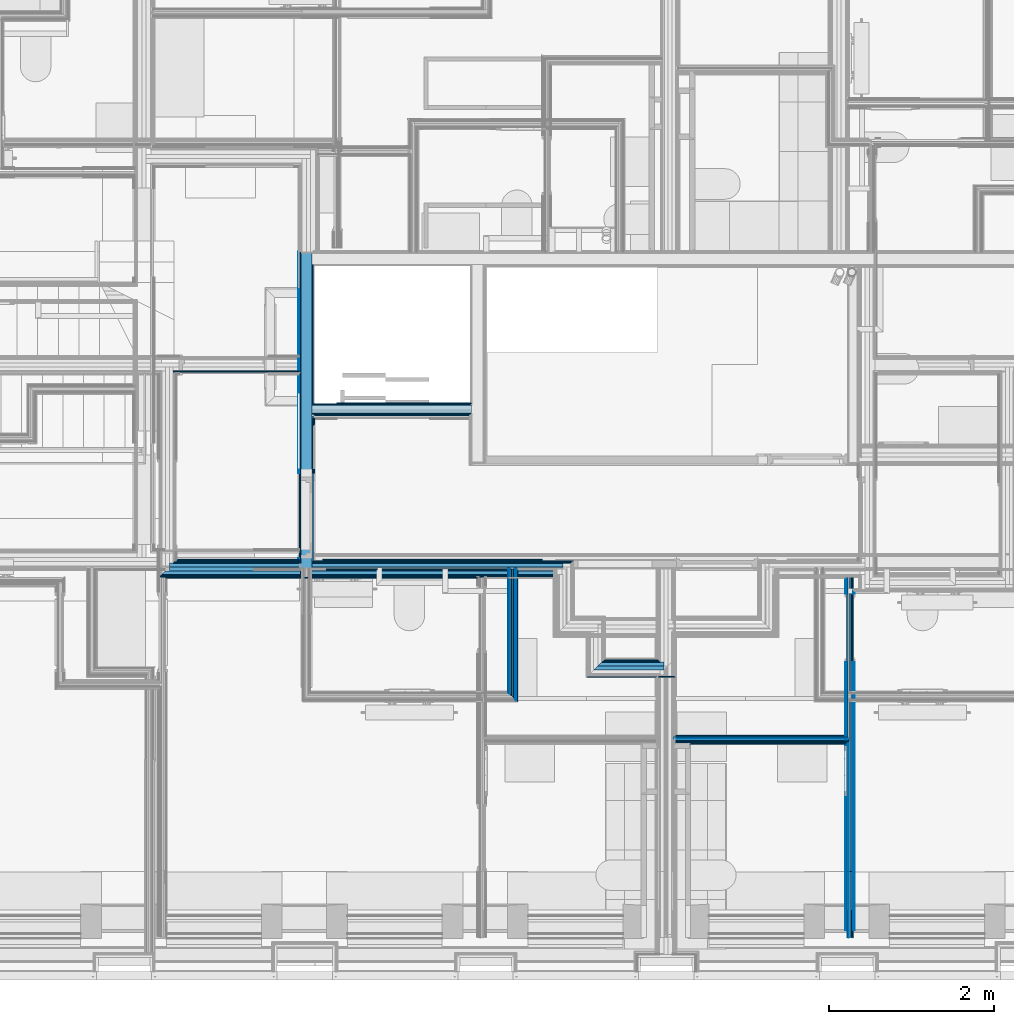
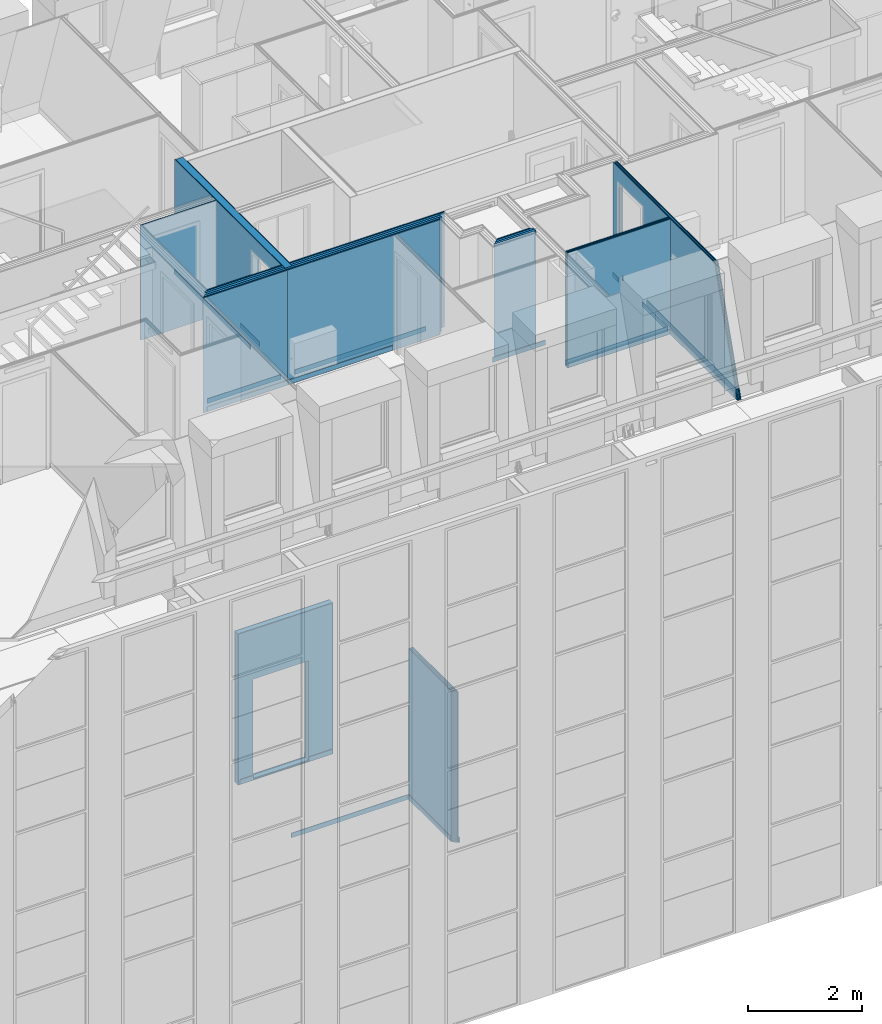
# One storey, part 21 of 169: 59 building element parts, 4 openings, 10 elements without a shape of their own.
"""IFC2X3 building model written with IfcOpenShell, lengths in metres."""

from ifc_helpers import new_model, entity, si_unit, converted_unit, derived_unit, money_unit, direction, frame, frame_2d, origin_with_axes, place, context, subcontext, project, spatial, polyline, rectangle, outline, extrude, clip, halfspace, material, type_object, element, aggregate, save


model = new_model("IFC2X3")

# Units and contexts
model_context = context("Model", 3, precision=1e-05, world=origin_with_axes(), true_north=direction((0.0, 1.0)))
body_context = subcontext(model_context, "Body", "Model", "MODEL_VIEW", scale=1.0)
ifc_project = project(units=[si_unit("LENGTHUNIT", "METRE"), si_unit("AREAUNIT", "SQUARE_METRE"), si_unit("VOLUMEUNIT", "CUBIC_METRE"), si_unit("ABSORBEDDOSEUNIT", "GRAY"), si_unit("AMOUNTOFSUBSTANCEUNIT", "MOLE"), si_unit("DOSEEQUIVALENTUNIT", "SIEVERT"), si_unit("ELECTRICCAPACITANCEUNIT", "FARAD"), si_unit("ELECTRICCHARGEUNIT", "COULOMB"), si_unit("ELECTRICCONDUCTANCEUNIT", "SIEMENS"), si_unit("ELECTRICCURRENTUNIT", "AMPERE"), si_unit("ELECTRICRESISTANCEUNIT", "OHM"), si_unit("ELECTRICVOLTAGEUNIT", "VOLT"), si_unit("ENERGYUNIT", "JOULE"), si_unit("FORCEUNIT", "NEWTON"), si_unit("FREQUENCYUNIT", "HERTZ"), si_unit("ILLUMINANCEUNIT", "LUX"), si_unit("INDUCTANCEUNIT", "HENRY"), si_unit("LUMINOUSFLUXUNIT", "LUMEN"), si_unit("LUMINOUSINTENSITYUNIT", "CANDELA"), si_unit("MAGNETICFLUXDENSITYUNIT", "TESLA"), si_unit("MAGNETICFLUXUNIT", "WEBER"), si_unit("MASSUNIT", "GRAM"), converted_unit("PLANEANGLEUNIT", "degree", entity("IfcReal", 0.0174532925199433), si_unit("PLANEANGLEUNIT", "RADIAN"), dimensions=[0, 0, 0, 0, 0, 0, 0]), si_unit("POWERUNIT", "WATT"), si_unit("PRESSUREUNIT", "PASCAL"), si_unit("RADIOACTIVITYUNIT", "BECQUEREL"), si_unit("SOLIDANGLEUNIT", "STERADIAN"), si_unit("THERMODYNAMICTEMPERATUREUNIT", "KELVIN"), si_unit("TIMEUNIT", "SECOND"), derived_unit("ACCELERATIONUNIT", [(si_unit("LENGTHUNIT", "METRE"), 1), (si_unit("TIMEUNIT", "SECOND"), -2)]), derived_unit("ANGULARVELOCITYUNIT", [(converted_unit("PLANEANGLEUNIT", "degree", entity("IfcReal", 0.0174532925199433), si_unit("PLANEANGLEUNIT", "RADIAN"), dimensions=[0, 0, 0, 0, 0, 0, 0]), 1), (si_unit("TIMEUNIT", "SECOND"), -1)]), derived_unit("CURVATUREUNIT", [(converted_unit("PLANEANGLEUNIT", "degree", entity("IfcReal", 0.0174532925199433), si_unit("PLANEANGLEUNIT", "RADIAN"), dimensions=[0, 0, 0, 0, 0, 0, 0]), 1), (si_unit("LENGTHUNIT", "METRE"), -1)]), derived_unit("DYNAMICVISCOSITYUNIT", [(si_unit("PRESSUREUNIT", "PASCAL"), 1), (si_unit("TIMEUNIT", "SECOND"), 1)]), derived_unit("HEATFLUXDENSITYUNIT", [(si_unit("POWERUNIT", "WATT"), 1), (si_unit("LENGTHUNIT", "METRE"), -2)]), derived_unit("HEATINGVALUEUNIT", [(si_unit("ENERGYUNIT", "JOULE"), 1), (si_unit("MASSUNIT", "GRAM"), -1)]), derived_unit("INTEGERCOUNTRATEUNIT", [(si_unit("TIMEUNIT", "SECOND"), -1)]), derived_unit("IONCONCENTRATIONUNIT", [(si_unit("MASSUNIT", "GRAM"), 1), (si_unit("VOLUMEUNIT", "CUBIC_METRE"), -1)]), derived_unit("ISOTHERMALMOISTURECAPACITYUNIT", [(si_unit("VOLUMEUNIT", "CUBIC_METRE"), 1), (si_unit("MASSUNIT", "GRAM"), -1)]), derived_unit("KINEMATICVISCOSITYUNIT", [(si_unit("AREAUNIT", "SQUARE_METRE"), 1), (si_unit("TIMEUNIT", "SECOND"), -1)]), derived_unit("LINEARFORCEUNIT", [(si_unit("FORCEUNIT", "NEWTON"), 1), (si_unit("LENGTHUNIT", "METRE"), -1)]), derived_unit("LINEARMOMENTUNIT", [(si_unit("FORCEUNIT", "NEWTON"), 1), (si_unit("LENGTHUNIT", "METRE"), -1)]), derived_unit("LINEARSTIFFNESSUNIT", [(si_unit("FORCEUNIT", "NEWTON"), 1), (si_unit("LENGTHUNIT", "METRE"), -1)]), derived_unit("LINEARVELOCITYUNIT", [(si_unit("LENGTHUNIT", "METRE"), 1), (si_unit("TIMEUNIT", "SECOND"), -1)]), derived_unit("LUMINOUSINTENSITYDISTRIBUTIONUNIT", [(si_unit("LUMINOUSINTENSITYUNIT", "CANDELA"), 1), (si_unit("LUMINOUSFLUXUNIT", "LUMEN"), -1)]), derived_unit("MASSDENSITYUNIT", [(si_unit("MASSUNIT", "GRAM"), 1), (si_unit("VOLUMEUNIT", "CUBIC_METRE"), -1)]), derived_unit("MASSFLOWRATEUNIT", [(si_unit("MASSUNIT", "GRAM"), 1), (si_unit("TIMEUNIT", "SECOND"), -1)]), derived_unit("MASSPERLENGTHUNIT", [(si_unit("MASSUNIT", "GRAM"), 1), (si_unit("LENGTHUNIT", "METRE"), -1)]), derived_unit("MODULUSOFELASTICITYUNIT", [(si_unit("FORCEUNIT", "NEWTON"), 1), (si_unit("AREAUNIT", "SQUARE_METRE"), -1)]), derived_unit("MODULUSOFLINEARSUBGRADEREACTIONUNIT", [(si_unit("FORCEUNIT", "NEWTON"), 1), (si_unit("LENGTHUNIT", "METRE"), -2)]), derived_unit("MODULUSOFROTATIONALSUBGRADEREACTIONUNIT", [(si_unit("FORCEUNIT", "NEWTON"), 1), (si_unit("LENGTHUNIT", "METRE"), 1)]), derived_unit("MODULUSOFSUBGRADEREACTIONUNIT", [(si_unit("FORCEUNIT", "NEWTON"), 1), (si_unit("VOLUMEUNIT", "CUBIC_METRE"), -1)]), derived_unit("MOISTUREDIFFUSIVITYUNIT", [(si_unit("VOLUMEUNIT", "CUBIC_METRE"), 1), (si_unit("TIMEUNIT", "SECOND"), -1)]), derived_unit("MOLECULARWEIGHTUNIT", [(si_unit("MASSUNIT", "GRAM"), 1), (si_unit("AMOUNTOFSUBSTANCEUNIT", "MOLE"), -1)]), derived_unit("PLANARFORCEUNIT", [(si_unit("FORCEUNIT", "NEWTON"), 1), (si_unit("LENGTHUNIT", "METRE"), -2)]), derived_unit("ROTATIONALFREQUENCYUNIT", [(si_unit("TIMEUNIT", "SECOND"), -1)]), derived_unit("ROTATIONALMASSUNIT", [(si_unit("MASSUNIT", "GRAM"), 1), (si_unit("LENGTHUNIT", "METRE"), 2)]), derived_unit("ROTATIONALSTIFFNESSUNIT", [(si_unit("FORCEUNIT", "NEWTON"), 1), (si_unit("LENGTHUNIT", "METRE"), 1), (converted_unit("PLANEANGLEUNIT", "degree", entity("IfcReal", 0.0174532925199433), si_unit("PLANEANGLEUNIT", "RADIAN"), dimensions=[0, 0, 0, 0, 0, 0, 0]), -1)]), derived_unit("SECTIONAREAINTEGRALUNIT", [(si_unit("LENGTHUNIT", "METRE"), 5)]), derived_unit("SECTIONMODULUSUNIT", [(si_unit("LENGTHUNIT", "METRE"), 3)]), derived_unit("SHEARMODULUSUNIT", [(si_unit("FORCEUNIT", "NEWTON"), 1), (si_unit("AREAUNIT", "SQUARE_METRE"), -1)]), derived_unit("SOUNDPOWERUNIT", [(si_unit("ENERGYUNIT", "JOULE"), 1), (si_unit("TIMEUNIT", "SECOND"), -1)]), derived_unit("SPECIFICHEATCAPACITYUNIT", [(si_unit("FORCEUNIT", "NEWTON"), 1), (si_unit("MASSUNIT", "GRAM"), -1), (si_unit("THERMODYNAMICTEMPERATUREUNIT", "KELVIN"), -1)]), derived_unit("TEMPERATUREGRADIENTUNIT", [(si_unit("THERMODYNAMICTEMPERATUREUNIT", "KELVIN"), 1), (si_unit("LENGTHUNIT", "METRE"), -1)]), derived_unit("THERMALADMITTANCEUNIT", [(si_unit("POWERUNIT", "WATT"), 1), (si_unit("AREAUNIT", "SQUARE_METRE"), -1), (si_unit("THERMODYNAMICTEMPERATUREUNIT", "KELVIN"), -1)]), derived_unit("THERMALCONDUCTANCEUNIT", [(si_unit("POWERUNIT", "WATT"), 1), (si_unit("LENGTHUNIT", "METRE"), -1), (si_unit("THERMODYNAMICTEMPERATUREUNIT", "KELVIN"), -1)]), derived_unit("THERMALEXPANSIONCOEFFICIENTUNIT", [(si_unit("THERMODYNAMICTEMPERATUREUNIT", "KELVIN"), -1)]), derived_unit("THERMALRESISTANCEUNIT", [(si_unit("AREAUNIT", "SQUARE_METRE"), 1), (si_unit("POWERUNIT", "WATT"), -1)]), derived_unit("THERMALTRANSMITTANCEUNIT", [(si_unit("POWERUNIT", "WATT"), 1), (si_unit("AREAUNIT", "SQUARE_METRE"), -1), (si_unit("THERMODYNAMICTEMPERATUREUNIT", "KELVIN"), -1)]), derived_unit("TORQUEUNIT", [(si_unit("FORCEUNIT", "NEWTON"), 1), (si_unit("LENGTHUNIT", "METRE"), 1)]), derived_unit("VAPORPERMEABILITYUNIT", [(si_unit("MASSUNIT", "GRAM"), 1), (si_unit("TIMEUNIT", "SECOND"), -1)]), derived_unit("VOLUMETRICFLOWRATEUNIT", [(si_unit("VOLUMEUNIT", "CUBIC_METRE"), 1), (si_unit("TIMEUNIT", "SECOND"), -1)]), derived_unit("WARPINGCONSTANTUNIT", [(si_unit("LENGTHUNIT", "METRE"), 6)]), derived_unit("WARPINGMOMENTUNIT", [(si_unit("FORCEUNIT", "NEWTON"), 1), (si_unit("LENGTHUNIT", "METRE"), 2)]), money_unit("GBP")], contexts=[model_context])

# Site, building, storey
site_placement = place(None, origin_with_axes())
site = spatial("IfcSite", under=ifc_project, at=site_placement, Name="Site", CompositionType="ELEMENT")
building_placement = place(site_placement, origin_with_axes())
building = spatial("IfcBuilding", under=site, at=building_placement, Name="Building01", CompositionType="ELEMENT")
storey_placement = place(building_placement, frame((0.0, 0.0, 5.15), z_axis=(0.0, 0.0, 1.0), x_axis=(1.0, 0.0, 0.0)))
storey = spatial("IfcBuildingStorey", under=building, at=storey_placement, Name="1F", CompositionType="ELEMENT", Elevation=5.15)

# Wall, opening, building element parts
wall_type_1 = type_object("IfcWallType", Name="SHE_A-Walls_Type04a_BlockworkWall_130mm", PredefinedType="NOTDEFINED")
wall_1_placement = place(storey_placement, frame((11.145, 6.965, 0.0), z_axis=(0.0, 0.0, 1.0), x_axis=(-1.0, 0.0, 0.0)))
wall_1 = element("IfcWall", 1, at=wall_1_placement, inside=storey, type_object=wall_type_1, Name="4A", ObjectType="SHE_A-Walls_Type04a_BlockworkWall_130mm")
opening_1_placement = place(wall_1_placement, frame((0.5, -0.03, 0.03), z_axis=(0.0, 0.0, 1.0), x_axis=(1.0, 0.0, 0.0)))
element("IfcOpeningElement", 2, at=opening_1_placement, cuts=wall_1, Name="Opening", ObjectType="Opening", context=body_context, shape_type="SweptSolid", body=[
    extrude(rectangle(XDim=1.133302, YDim=2.14, at=frame_2d((-0.566651, 1.07), x_axis=(-1.0, 0.0))), frame((0.0, 0.0, 0.0), z_axis=(0.0, 1.0, 0.0), x_axis=(-1.0, 0.0, 0.0)), (0.0, 0.0, 1.0), 0.16),
])
ifc_material_1 = material(Name="A_BSUK_Walls_Timber")
placement_1 = place(wall_1_placement, origin_with_axes())
building_element_part_1 = element("IfcBuildingElementPart", 3, at=placement_1, material=ifc_material_1, Name="1", context=body_context, shape_type="SweptSolid", body=[
    extrude(outline(polyline([(0.0, -0.015), (0.015, -0.03), (1.633302, -0.03), (1.633302, -0.015), (0.0, -0.015)])), frame((0.0, 0.0, 0.015), z_axis=(0.0, 0.0, 1.0), x_axis=(1.0, 0.0, 0.0)), (0.0, 0.0, 1.0), 0.1),
])
ifc_material_2 = material(Name="A_BSUK_WallInternal_Finishes_Plasterboard")
building_element_part_2 = element("IfcBuildingElementPart", 4, at=placement_1, material=ifc_material_2, Name="2", context=body_context, shape_type="SweptSolid", body=[
    extrude(outline(polyline([(1.93, 0.0), (0.0, 0.0), (0.015, -0.015), (1.93, -0.015), (1.93, 0.0)])), origin_with_axes(), (0.0, 0.0, 1.0), 3.24),
])
ifc_material_3 = material(Name="A_BSUK_WallsInternal_Block")
building_element_part_3 = element("IfcBuildingElementPart", 5, at=placement_1, material=ifc_material_3, Name="3", context=body_context, shape_type="SweptSolid", body=[
    extrude(rectangle(XDim=1.93, YDim=0.1, at=frame_2d((0.965, 0.05), x_axis=(-1.0, 0.0))), origin_with_axes(), (0.0, 0.0, 1.0), 3.24),
])
ifc_material_4 = material(Name="A_BSUK_WallInternal_Finishes_Plaster")
building_element_part_4 = element("IfcBuildingElementPart", 6, at=placement_1, material=ifc_material_4, Name="4", context=body_context, shape_type="SweptSolid", body=[
    extrude(outline(polyline([(1.93, 0.115), (0.015, 0.115), (0.0, 0.1), (1.93, 0.1), (1.93, 0.115)])), origin_with_axes(), (0.0, 0.0, 1.0), 3.24),
])
building_element_part_5 = element("IfcBuildingElementPart", 7, at=placement_1, material=ifc_material_1, Name="5", context=body_context, shape_type="SweptSolid", body=[
    extrude(outline(polyline([(1.9, 0.13), (0.03, 0.13), (0.015, 0.115), (1.9, 0.115), (1.9, 0.13)])), frame((0.0, 0.0, 0.015), z_axis=(0.0, 0.0, 1.0), x_axis=(1.0, 0.0, 0.0)), (0.0, 0.0, 1.0), 0.1),
])
aggregate(wall_1, [building_element_part_1, building_element_part_2, building_element_part_3, building_element_part_4, building_element_part_5])

# Wall, building element parts
wall_type_2 = type_object("IfcWallType", Name="SHE_A-Walls_Type05a_Partition_95mm_tall", PredefinedType="NOTDEFINED")
wall_2_placement = place(storey_placement, frame((11.652536, 3.42, 0.0), z_axis=(0.0, 0.0, 1.0), x_axis=(0.0, -1.0, 0.0)))
wall_2 = element("IfcWall", 8, at=wall_2_placement, inside=storey, type_object=wall_type_2, Name="5A", ObjectType="SHE_A-Walls_Type05a_Partition_95mm_tall")
placement_2 = place(wall_2_placement, origin_with_axes())
building_element_part_6 = element("IfcBuildingElementPart", 9, at=placement_2, material=ifc_material_1, Name="1", context=body_context, shape_type="SweptSolid", body=[
    extrude(outline(polyline([(-1.545, -0.075), (-0.075, -0.075), (-0.06, -0.06), (-1.545, -0.06), (-1.545, -0.075)])), frame((0.0, 0.0, 0.015), z_axis=(0.0, 0.0, 1.0), x_axis=(1.0, 0.0, 0.0)), (0.0, 0.0, 1.0), 0.1),
])
building_element_part_7 = element("IfcBuildingElementPart", 10, at=placement_2, material=ifc_material_2, Name="2", context=body_context, shape_type="SweptSolid", body=[
    extrude(outline(polyline([(-1.56, -0.06), (-0.06, -0.06), (-0.048, -0.048), (-1.56, -0.048), (-1.56, -0.06)])), origin_with_axes(), (0.0, 0.0, 1.0), 3.24),
])
ifc_material_5 = material(Name="Air Cavity")
building_element_part_8 = element("IfcBuildingElementPart", 11, at=placement_2, material=ifc_material_5, Name="3", context=body_context, shape_type="SweptSolid", body=[
    extrude(outline(polyline([(-1.56, -0.048), (-0.048, -0.048), (-0.025, -0.025), (-1.56, -0.025), (-1.56, -0.048)])), origin_with_axes(), (0.0, 0.0, 1.0), 3.24),
])
ifc_material_6 = material(Name="A_BSUK_Insulation")
building_element_part_9 = element("IfcBuildingElementPart", 12, at=placement_2, material=ifc_material_6, Name="4", context=body_context, shape_type="SweptSolid", body=[
    extrude(outline(polyline([(-1.56, -0.025), (-0.025, -0.025), (0.0, 0.0), (-1.56, 0.0), (-1.56, -0.025)])), origin_with_axes(), (0.0, 0.0, 1.0), 3.24),
])
building_element_part_10 = element("IfcBuildingElementPart", 13, at=placement_2, material=ifc_material_5, Name="5", context=body_context, shape_type="SweptSolid", body=[
    extrude(outline(polyline([(-1.56, 0.0), (0.0, 0.0), (0.023, 0.023), (-1.56, 0.023), (-1.56, 0.0)])), origin_with_axes(), (0.0, 0.0, 1.0), 3.24),
])
building_element_part_11 = element("IfcBuildingElementPart", 14, at=placement_2, material=ifc_material_2, Name="6", context=body_context, shape_type="SweptSolid", body=[
    extrude(outline(polyline([(-1.56, 0.023), (0.023, 0.023), (0.035, 0.035), (-1.56, 0.035), (-1.56, 0.023)])), origin_with_axes(), (0.0, 0.0, 1.0), 3.24),
])
building_element_part_12 = element("IfcBuildingElementPart", 15, at=placement_2, material=ifc_material_1, Name="7", context=body_context, shape_type="SweptSolid", body=[
    extrude(outline(polyline([(-1.56, 0.035), (0.035, 0.035), (0.05, 0.05), (-1.56, 0.05), (-1.56, 0.035)])), frame((0.0, 0.0, 0.015), z_axis=(0.0, 0.0, 1.0), x_axis=(1.0, 0.0, 0.0)), (0.0, 0.0, 1.0), 0.1),
])
aggregate(wall_2, [building_element_part_6, building_element_part_7, building_element_part_8, building_element_part_9, building_element_part_10, building_element_part_11, building_element_part_12])

# Wall, building element part
wall_type_3 = type_object("IfcWallType", Name="SHE_A-Walls_Type03a_BlockworkWall_170mm", PredefinedType="NOTDEFINED")
wall_3_placement = place(storey_placement, frame((9.215, 4.995, 0.0), z_axis=(0.0, 0.0, 1.0), x_axis=(1.0, 0.0, 0.0)))
wall_3 = element("IfcWall", 16, at=wall_3_placement, inside=storey, type_object=wall_type_3, Name="4B", ObjectType="SHE_A-Walls_Type03a_BlockworkWall_170mm")
building_element_part_13_placement = place(wall_3_placement, origin_with_axes())
building_element_part_13 = element("IfcBuildingElementPart", 17, at=building_element_part_13_placement, material=ifc_material_1, Name="4", context=body_context, shape_type="SweptSolid", body=[
    extrude(rectangle(XDim=2.385, YDim=0.015, at=frame_2d((1.185036, -0.0225), x_axis=(-1.0, 0.0))), frame((0.0, 0.0, 0.015), z_axis=(0.0, 0.0, 1.0), x_axis=(1.0, 0.0, 0.0)), (0.0, 0.0, 1.0), 0.1),
])
aggregate(wall_3, [building_element_part_13])

# Wall, openings, building element parts
wall_4_placement = place(storey_placement, frame((9.075, 8.805, 9.83), z_axis=(0.0, 0.0, 1.0), x_axis=(0.0, -1.0, 0.0)))
wall_4 = element("IfcWall", 18, at=wall_4_placement, inside=storey, type_object=wall_type_3, Name="4B", ObjectType="SHE_A-Walls_Type03a_BlockworkWall_170mm")
opening_2_placement = place(wall_4_placement, frame((2.667281, -0.03, 0.0), z_axis=(0.0, 0.0, 1.0), x_axis=(1.0, 0.0, 0.0)))
element("IfcOpeningElement", 19, at=opening_2_placement, cuts=wall_4, Name="Opening", ObjectType="Opening", context=body_context, shape_type="SweptSolid", body=[
    extrude(rectangle(XDim=0.984, YDim=2.142, at=frame_2d((-0.492, 1.071), x_axis=(1.0, 0.0))), frame((0.0, 0.0, 0.0), z_axis=(0.0, 1.0, 0.0), x_axis=(-1.0, 0.0, 0.0)), (0.0, 0.0, 1.0), 0.2),
])
opening_3_placement = place(wall_4_placement, frame((2.713, -0.03, 0.0), z_axis=(0.0, 0.0, 1.0), x_axis=(1.0, 0.0, 0.0)))
element("IfcOpeningElement", 20, at=opening_3_placement, cuts=wall_4, Name="Opening", ObjectType="Opening", context=body_context, shape_type="SweptSolid", body=[
    extrude(rectangle(XDim=2.142, YDim=0.984, at=frame_2d((-0.492, 1.071), x_axis=(0.0, -1.0))), frame((0.0, 0.0, 0.0), z_axis=(0.0, 1.0, 0.0), x_axis=(-1.0, 0.0, 0.0)), (0.0, 0.0, 1.0), 0.2),
])
placement_3 = place(wall_4_placement, origin_with_axes())
building_element_part_14 = element("IfcBuildingElementPart", 21, at=placement_3, material=ifc_material_1, Name="1", context=body_context, shape_type="SweptSolid", body=[
    extrude(rectangle(XDim=3.725, YDim=0.015, at=frame_2d((1.8475, -0.0225), x_axis=(-1.0, 0.0))), frame((0.0, 0.0, 0.015), z_axis=(0.0, 0.0, 1.0), x_axis=(1.0, 0.0, 0.0)), (0.0, 0.0, 1.0), 0.1),
])
building_element_part_15 = element("IfcBuildingElementPart", 22, at=placement_3, material=ifc_material_2, Name="2", context=body_context, shape_type="SweptSolid", body=[
    extrude(rectangle(XDim=3.755, YDim=0.015, at=frame_2d((1.8625, -0.0075), x_axis=(-1.0, 0.0))), origin_with_axes(), (0.0, 0.0, 1.0), 2.468),
])
building_element_part_16 = element("IfcBuildingElementPart", 23, at=placement_3, material=ifc_material_3, Name="3", context=body_context, shape_type="SweptSolid", body=[
    extrude(rectangle(XDim=3.85, YDim=0.14, at=frame_2d((1.925, 0.07), x_axis=(-1.0, 0.0))), origin_with_axes(), (0.0, 0.0, 1.0), 2.468),
])
building_element_part_17 = element("IfcBuildingElementPart", 24, at=placement_3, material=ifc_material_4, Name="4", context=body_context, shape_type="SweptSolid", body=[
    extrude(rectangle(XDim=1.685, YDim=0.015, at=frame_2d((0.9825, 0.1475), x_axis=(-1.0, 0.0))), origin_with_axes(), (0.0, 0.0, 1.0), 2.468),
])
building_element_part_18 = element("IfcBuildingElementPart", 25, at=placement_3, material=ifc_material_4, Name="5", context=body_context, shape_type="SweptSolid", body=[
    extrude(rectangle(XDim=1.766, YDim=0.015, at=frame_2d((2.857, 0.1475), x_axis=(-1.0, 0.0))), origin_with_axes(), (0.0, 0.0, 1.0), 2.468),
])
building_element_part_19 = element("IfcBuildingElementPart", 26, at=placement_3, material=ifc_material_1, Name="6", context=body_context, shape_type="SweptSolid", body=[
    extrude(outline(polyline([(3.61, 0.17), (1.998, 0.17), (1.998, 0.155), (3.625, 0.155), (3.61, 0.17)])), frame((0.0, 0.0, 0.015), z_axis=(0.0, 0.0, 1.0), x_axis=(1.0, 0.0, 0.0)), (0.0, 0.0, 1.0), 0.1),
])
aggregate(wall_4, [building_element_part_14, building_element_part_15, building_element_part_16, building_element_part_17, building_element_part_18, building_element_part_19])

# Wall, building element parts
wall_type_4 = type_object("IfcWallType", Name="SHE_A-Walls_Type05b_Partition_80mm", PredefinedType="NOTDEFINED")
wall_5_placement = place(storey_placement, frame((15.717, 2.922761, 9.83), z_axis=(0.0, 0.0, 1.0), x_axis=(-1.0, 0.0, 0.0)))
wall_5 = element("IfcWall", 27, at=wall_5_placement, inside=storey, type_object=wall_type_4, Name="5B", ObjectType="SHE_A-Walls_Type05b_Partition_80mm")
placement_4 = place(wall_5_placement, origin_with_axes())
building_element_part_20 = element("IfcBuildingElementPart", 28, at=placement_4, material=ifc_material_1, Name="1", context=body_context, shape_type="SweptSolid", body=[
    extrude(rectangle(XDim=2.06, YDim=0.015, at=frame_2d((1.072, -0.0345), x_axis=(-1.0, 0.0))), frame((0.0, 0.0, 0.015), z_axis=(0.0, 0.0, 1.0), x_axis=(1.0, 0.0, 0.0)), (0.0, 0.0, 1.0), 0.1),
])
building_element_part_21 = element("IfcBuildingElementPart", 29, at=placement_4, material=ifc_material_2, Name="2", context=body_context, shape_type="SweptSolid", body=[
    extrude(rectangle(XDim=2.105, YDim=0.015, at=frame_2d((1.0645, -0.0195), x_axis=(-1.0, 0.0))), origin_with_axes(), (0.0, 0.0, 1.0), 2.468),
])
building_element_part_22 = element("IfcBuildingElementPart", 30, at=placement_4, material=ifc_material_5, Name="3", context=body_context, shape_type="SweptSolid", body=[
    extrude(rectangle(XDim=2.105, YDim=0.012, at=frame_2d((1.0645, -0.006), x_axis=(-1.0, 0.0))), origin_with_axes(), (0.0, 0.0, 1.0), 2.468),
])
building_element_part_23 = element("IfcBuildingElementPart", 31, at=placement_4, material=ifc_material_6, Name="4", context=body_context, shape_type="SweptSolid", body=[
    extrude(rectangle(XDim=2.117, YDim=0.025, at=frame_2d((1.0585, 0.0125), x_axis=(-1.0, 0.0))), origin_with_axes(), (0.0, 0.0, 1.0), 2.468),
])
building_element_part_24 = element("IfcBuildingElementPart", 32, at=placement_4, material=ifc_material_5, Name="5", context=body_context, shape_type="SweptSolid", body=[
    extrude(rectangle(XDim=2.117, YDim=0.013, at=frame_2d((1.0585, 0.0315), x_axis=(-1.0, 0.0))), origin_with_axes(), (0.0, 0.0, 1.0), 2.468),
])
building_element_part_25 = element("IfcBuildingElementPart", 33, at=placement_4, material=ifc_material_2, Name="6", context=body_context, shape_type="SweptSolid", body=[
    extrude(rectangle(XDim=2.09, YDim=0.015, at=frame_2d((1.072, 0.0455), x_axis=(-1.0, 0.0))), origin_with_axes(), (0.0, 0.0, 1.0), 2.468),
])
building_element_part_26 = element("IfcBuildingElementPart", 34, at=placement_4, material=ifc_material_1, Name="7", context=body_context, shape_type="SweptSolid", body=[
    extrude(rectangle(XDim=2.06, YDim=0.015, at=frame_2d((1.072, 0.0605), x_axis=(-1.0, 0.0))), frame((0.0, 0.0, 0.015), z_axis=(0.0, 0.0, 1.0), x_axis=(1.0, 0.0, 0.0)), (0.0, 0.0, 1.0), 0.1),
])
aggregate(wall_5, [building_element_part_20, building_element_part_21, building_element_part_22, building_element_part_23, building_element_part_24, building_element_part_25, building_element_part_26])

# Wall, building element part
wall_type_5 = type_object("IfcWallType", Name="SHE_A-Walls_Type01d_Partywall_200mm_twin", PredefinedType="NOTDEFINED")
wall_6_placement = place(storey_placement, frame((9.06, 7.425061, 9.83), z_axis=(0.0, 0.0, 1.0), x_axis=(-1.0, 0.0, 0.0)))
wall_6 = element("IfcWall", 35, at=wall_6_placement, inside=storey, type_object=wall_type_5, Name="1D", ObjectType="SHE_A-Walls_Type01d_Partywall_200mm_twin")
building_element_part_27_placement = place(wall_6_placement, origin_with_axes())
building_element_part_27 = element("IfcBuildingElementPart", 36, at=building_element_part_27_placement, material=ifc_material_2, Name="11", context=body_context, shape_type="SweptSolid", body=[
    extrude(rectangle(XDim=0.015, YDim=1.53, at=frame_2d((0.765, 0.0525), x_axis=(0.0, -1.0))), origin_with_axes(), (0.0, 0.0, 1.0), 2.468),
])
aggregate(wall_6, [building_element_part_27])

# Wall, building element parts
wall_7_placement = place(storey_placement, frame((12.65, 3.78, 9.83), z_axis=(0.0, 0.0, 1.0), x_axis=(1.0, 0.0, 0.0)))
wall_7 = element("IfcWall", 37, at=wall_7_placement, inside=storey, type_object=wall_type_5, Name="1D", ObjectType="SHE_A-Walls_Type01d_Partywall_200mm_twin")
placement_5 = place(wall_7_placement, origin_with_axes())
building_element_part_28 = element("IfcBuildingElementPart", 38, at=placement_5, material=ifc_material_1, Name="1", context=body_context, shape_type="SweptSolid", body=[
    extrude(outline(polyline([(0.95, -0.1), (-0.1, -0.1), (-0.115, -0.115), (0.965, -0.115), (0.95, -0.1)])), frame((0.0, 0.0, 0.015), z_axis=(0.0, 0.0, 1.0), x_axis=(1.0, 0.0, 0.0)), (0.0, 0.0, 1.0), 0.1),
])
building_element_part_29 = element("IfcBuildingElementPart", 39, at=placement_5, material=ifc_material_6, Name="5", context=body_context, shape_type="SweptSolid", body=[
    extrude(outline(polyline([(0.825, 0.025), (0.025, 0.025), (-0.025, -0.025), (0.825, -0.025), (0.825, 0.025)])), origin_with_axes(), (0.0, 0.0, 1.0), 2.468),
])
building_element_part_30 = element("IfcBuildingElementPart", 40, at=placement_5, material=ifc_material_5, Name="6", context=body_context, shape_type="SweptSolid", body=[
    extrude(outline(polyline([(0.825, 0.07), (0.07, 0.07), (0.025, 0.025), (0.825, 0.025), (0.825, 0.07)])), origin_with_axes(), (0.0, 0.0, 1.0), 2.468),
])
building_element_part_31 = element("IfcBuildingElementPart", 41, at=placement_5, material=ifc_material_2, Name="7", context=body_context, shape_type="SweptSolid", body=[
    extrude(outline(polyline([(0.765, 0.085), (0.085, 0.085), (0.07, 0.07), (0.78, 0.07), (0.765, 0.085)])), origin_with_axes(), (0.0, 0.0, 1.0), 2.468),
])
building_element_part_32 = element("IfcBuildingElementPart", 42, at=placement_5, material=ifc_material_2, Name="8", context=body_context, shape_type="SweptSolid", body=[
    extrude(outline(polyline([(0.75, 0.1), (0.1, 0.1), (0.085, 0.085), (0.765, 0.085), (0.75, 0.1)])), origin_with_axes(), (0.0, 0.0, 1.0), 2.468),
])
aggregate(wall_7, [building_element_part_28, building_element_part_29, building_element_part_30, building_element_part_31, building_element_part_32])

wall_8_placement = place(storey_placement, frame((7.485, 4.955, 9.83), z_axis=(0.0, 0.0, 1.0), x_axis=(1.0, 0.0, 0.0)))
wall_8 = element("IfcWall", 43, at=wall_8_placement, inside=storey, type_object=wall_type_5, Name="1D", ObjectType="SHE_A-Walls_Type01d_Partywall_200mm_twin")
placement_6 = place(wall_8_placement, origin_with_axes())
building_element_part_33 = element("IfcBuildingElementPart", 44, at=placement_6, material=ifc_material_1, Name="1", context=body_context, shape_type="SweptSolid", body=[
    extrude(rectangle(XDim=1.635, YDim=0.015, at=frame_2d((0.7725, -0.0825), x_axis=(-1.0, 0.0))), frame((0.0, 0.0, 0.015), z_axis=(0.0, 0.0, 1.0), x_axis=(1.0, 0.0, 0.0)), (0.0, 0.0, 1.0), 0.1),
])
building_element_part_34 = element("IfcBuildingElementPart", 45, at=placement_6, material=ifc_material_2, Name="2", context=body_context, shape_type="SweptSolid", body=[
    extrude(outline(polyline([(1.59, -0.06), (-0.11, -0.06), (-0.125, -0.075), (1.59, -0.075), (1.59, -0.06)])), origin_with_axes(), (0.0, 0.0, 1.0), 2.468),
])
building_element_part_35 = element("IfcBuildingElementPart", 46, at=placement_6, material=ifc_material_2, Name="3", context=body_context, shape_type="SweptSolid", body=[
    extrude(outline(polyline([(1.59, -0.045), (-0.095, -0.045), (-0.11, -0.06), (1.59, -0.06), (1.59, -0.045)])), origin_with_axes(), (0.0, 0.0, 1.0), 2.468),
])
building_element_part_36 = element("IfcBuildingElementPart", 47, at=placement_6, material=ifc_material_5, Name="4", context=body_context, shape_type="SweptSolid", body=[
    extrude(outline(polyline([(1.59, 0.0), (-0.05, 0.0), (-0.095, -0.045), (1.59, -0.045), (1.59, 0.0)])), origin_with_axes(), (0.0, 0.0, 1.0), 2.468),
])
building_element_part_37 = element("IfcBuildingElementPart", 48, at=placement_6, material=ifc_material_6, Name="5", context=body_context, shape_type="SweptSolid", body=[
    extrude(rectangle(XDim=1.59, YDim=0.05, at=frame_2d((0.795, 0.025), x_axis=(-1.0, 0.0))), origin_with_axes(), (0.0, 0.0, 1.0), 2.468),
])
building_element_part_38 = element("IfcBuildingElementPart", 49, at=placement_6, material=ifc_material_5, Name="6", context=body_context, shape_type="SweptSolid", body=[
    extrude(rectangle(XDim=1.59, YDim=0.045, at=frame_2d((0.795, 0.0725), x_axis=(-1.0, 0.0))), origin_with_axes(), (0.0, 0.0, 1.0), 2.468),
])
building_element_part_39 = element("IfcBuildingElementPart", 50, at=placement_6, material=ifc_material_2, Name="7", context=body_context, shape_type="SweptSolid", body=[
    extrude(outline(polyline([(1.59, 0.11), (0.06, 0.11), (0.045, 0.095), (1.59, 0.095), (1.59, 0.11)])), origin_with_axes(), (0.0, 0.0, 1.0), 2.468),
])
building_element_part_40 = element("IfcBuildingElementPart", 51, at=placement_6, material=ifc_material_2, Name="8", context=body_context, shape_type="SweptSolid", body=[
    extrude(outline(polyline([(1.575, 0.125), (0.075, 0.125), (0.06, 0.11), (1.575, 0.11), (1.575, 0.125)])), origin_with_axes(), (0.0, 0.0, 1.0), 2.468),
])
building_element_part_41 = element("IfcBuildingElementPart", 52, at=placement_6, material=ifc_material_1, Name="9", context=body_context, shape_type="SweptSolid", body=[
    extrude(outline(polyline([(1.575, 0.14), (0.09, 0.14), (0.075, 0.125), (1.575, 0.125), (1.575, 0.14)])), frame((0.0, 0.0, 0.015), z_axis=(0.0, 0.0, 1.0), x_axis=(1.0, 0.0, 0.0)), (0.0, 0.0, 1.0), 0.1),
])
aggregate(wall_8, [building_element_part_33, building_element_part_34, building_element_part_35, building_element_part_36, building_element_part_37, building_element_part_38, building_element_part_39, building_element_part_40, building_element_part_41])

# Wall, opening, building element parts
wall_9_placement = place(storey_placement, frame((15.717, 4.88, 9.83), z_axis=(0.0, 0.0, 1.0), x_axis=(0.0, -1.0, 0.0)))
wall_9 = element("IfcWall", 53, at=wall_9_placement, inside=storey, type_object=wall_type_4, Name="5B", ObjectType="SHE_A-Walls_Type05b_Partition_80mm")
opening_4_placement = place(wall_9_placement, frame((0.198239, 0.068, 0.0), z_axis=(0.0, 0.0, 1.0), x_axis=(1.0, 0.0, 0.0)))
element("IfcOpeningElement", 54, at=opening_4_placement, cuts=wall_9, Name="Opening", ObjectType="Opening", context=body_context, shape_type="SweptSolid", body=[
    extrude(rectangle(XDim=2.142, YDim=0.834, at=frame_2d((0.417, 1.071), x_axis=(0.0, -1.0))), frame((0.0, 0.0, 0.0), z_axis=(0.0, -1.0, 0.0), x_axis=(1.0, 0.0, 0.0)), (0.0, 0.0, 1.0), 0.11),
])
placement_7 = place(wall_9_placement, origin_with_axes())
building_element_part_42 = element("IfcBuildingElementPart", 55, at=placement_7, material=ifc_material_1, Name="1", context=body_context, shape_type="SweptSolid", body=[
    extrude(rectangle(XDim=1.930239, YDim=0.015, at=frame_2d((0.965119, -0.0345), x_axis=(-1.0, 0.0))), frame((0.0, 0.0, 0.015), z_axis=(0.0, 0.0, 1.0), x_axis=(1.0, 0.0, 0.0)), (0.0, 0.0, 1.0), 0.1),
])
building_element_part_43 = element("IfcBuildingElementPart", 56, at=placement_7, material=ifc_material_1, Name="2", context=body_context, shape_type="SweptSolid", body=[
    extrude(rectangle(XDim=4.2762, YDim=0.015, at=frame_2d((2.1381, -0.0345), x_axis=(-1.0, 0.0))), frame((0.0, 0.0, 0.015), z_axis=(0.0, 0.0, 1.0), x_axis=(1.0, 0.0, 0.0)), (0.0, 0.0, 1.0), 0.1),
])
building_element_part_44 = element("IfcBuildingElementPart", 57, at=placement_7, material=ifc_material_2, Name="3", context=body_context, shape_type="SweptSolid", body=[
    extrude(rectangle(XDim=1.930239, YDim=0.015, at=frame_2d((0.965119, -0.0195), x_axis=(-1.0, 0.0))), origin_with_axes(), (0.0, 0.0, 1.0), 2.468),
])
building_element_part_45 = element("IfcBuildingElementPart", 58, at=placement_7, material=ifc_material_2, Name="4", context=body_context, shape_type="Clipping", body=[
    clip(extrude(rectangle(XDim=2.371419, YDim=0.015, at=frame_2d((3.180948, -0.0195), x_axis=(-1.0, 0.0))), origin_with_axes(), (0.0, 0.0, 1.0), 2.468), halfspace(frame((3.949679, 0.0, 1.283329), z_axis=(-0.95105652, 0.0, -0.30901699), x_axis=(0.0, -1.0, 0.0)), True)),
])
building_element_part_46 = element("IfcBuildingElementPart", 59, at=placement_7, material=ifc_material_5, Name="5", context=body_context, shape_type="Clipping", body=[
    clip(extrude(rectangle(XDim=2.371419, YDim=0.012, at=frame_2d((3.180948, -0.006), x_axis=(-1.0, 0.0))), origin_with_axes(), (0.0, 0.0, 1.0), 2.468), halfspace(frame((3.949679, 0.0, 1.283329), z_axis=(-0.95105652, 0.0, -0.30901699), x_axis=(0.0, -1.0, 0.0)), True)),
])
building_element_part_47 = element("IfcBuildingElementPart", 60, at=placement_7, material=ifc_material_6, Name="6", context=body_context, shape_type="Clipping", body=[
    clip(extrude(rectangle(XDim=4.366658, YDim=0.025, at=frame_2d((2.183329, 0.0125), x_axis=(-1.0, 0.0))), origin_with_axes(), (0.0, 0.0, 1.0), 2.468), halfspace(frame((3.949679, 0.0, 1.283329), z_axis=(-0.95105652, 0.0, -0.30901699), x_axis=(0.0, -1.0, 0.0)), True)),
])
building_element_part_48 = element("IfcBuildingElementPart", 61, at=placement_7, material=ifc_material_5, Name="7", context=body_context, shape_type="Clipping", body=[
    clip(extrude(rectangle(XDim=4.366658, YDim=0.013, at=frame_2d((2.183329, 0.0315), x_axis=(-1.0, 0.0))), origin_with_axes(), (0.0, 0.0, 1.0), 2.468), halfspace(frame((3.949679, 0.0, 1.283329), z_axis=(-0.95105652, 0.0, -0.30901699), x_axis=(0.0, -1.0, 0.0)), True)),
])
building_element_part_49 = element("IfcBuildingElementPart", 62, at=placement_7, material=ifc_material_2, Name="8", context=body_context, shape_type="Clipping", body=[
    clip(extrude(rectangle(XDim=4.366658, YDim=0.015, at=frame_2d((2.183329, 0.0455), x_axis=(-1.0, 0.0))), origin_with_axes(), (0.0, 0.0, 1.0), 2.468), halfspace(frame((3.949679, 0.0, 1.283329), z_axis=(-0.95105652, 0.0, -0.30901699), x_axis=(0.0, -1.0, 0.0)), True)),
])
building_element_part_50 = element("IfcBuildingElementPart", 63, at=placement_7, material=ifc_material_1, Name="9", context=body_context, shape_type="SweptSolid", body=[
    extrude(outline(polyline([(4.2762, 0.068), (0.178, 0.068), (0.163, 0.053), (4.2762, 0.053), (4.2762, 0.068)])), frame((0.0, 0.0, 0.015), z_axis=(0.0, 0.0, 1.0), x_axis=(1.0, 0.0, 0.0)), (0.0, 0.0, 1.0), 0.1),
])
aggregate(wall_9, [building_element_part_42, building_element_part_43, building_element_part_44, building_element_part_45, building_element_part_46, building_element_part_47, building_element_part_48, building_element_part_49, building_element_part_50])

# Wall, building element parts
wall_10_placement = place(storey_placement, frame((9.215, 4.955, 9.83), z_axis=(0.0, 0.0, 1.0), x_axis=(1.0, 0.0, 0.0)))
wall_10 = element("IfcWall", 64, at=wall_10_placement, inside=storey, type_object=wall_type_5, Name="1D", ObjectType="SHE_A-Walls_Type01d_Partywall_200mm_twin")
placement_8 = place(wall_10_placement, origin_with_axes())
building_element_part_51 = element("IfcBuildingElementPart", 65, at=placement_8, material=ifc_material_1, Name="1", context=body_context, shape_type="SweptSolid", body=[
    extrude(rectangle(XDim=2.14, YDim=0.015, at=frame_2d((0.93, -0.0825), x_axis=(-1.0, 0.0))), frame((0.0, 0.0, 0.015), z_axis=(0.0, 0.0, 1.0), x_axis=(1.0, 0.0, 0.0)), (0.0, 0.0, 1.0), 0.1),
])
building_element_part_52 = element("IfcBuildingElementPart", 66, at=placement_8, material=ifc_material_2, Name="3", context=body_context, shape_type="SweptSolid", body=[
    extrude(rectangle(XDim=3.1, YDim=0.015, at=frame_2d((1.41, -0.0675), x_axis=(-1.0, 0.0))), origin_with_axes(), (0.0, 0.0, 1.0), 2.468),
])
building_element_part_53 = element("IfcBuildingElementPart", 67, at=placement_8, material=ifc_material_2, Name="4", context=body_context, shape_type="SweptSolid", body=[
    extrude(rectangle(XDim=3.115, YDim=0.015, at=frame_2d((1.4175, -0.0525), x_axis=(-1.0, 0.0))), origin_with_axes(), (0.0, 0.0, 1.0), 2.468),
])
building_element_part_54 = element("IfcBuildingElementPart", 68, at=placement_8, material=ifc_material_5, Name="5", context=body_context, shape_type="SweptSolid", body=[
    extrude(rectangle(XDim=3.115, YDim=0.045, at=frame_2d((1.4175, -0.0225), x_axis=(-1.0, 0.0))), origin_with_axes(), (0.0, 0.0, 1.0), 2.468),
])
building_element_part_55 = element("IfcBuildingElementPart", 69, at=placement_8, material=ifc_material_6, Name="6", context=body_context, shape_type="SweptSolid", body=[
    extrude(rectangle(XDim=3.035, YDim=0.05, at=frame_2d((1.5175, 0.025), x_axis=(-1.0, 0.0))), origin_with_axes(), (0.0, 0.0, 1.0), 2.468),
])
building_element_part_56 = element("IfcBuildingElementPart", 70, at=placement_8, material=ifc_material_5, Name="7", context=body_context, shape_type="SweptSolid", body=[
    extrude(rectangle(XDim=3.035, YDim=0.045, at=frame_2d((1.5175, 0.0725), x_axis=(-1.0, 0.0))), origin_with_axes(), (0.0, 0.0, 1.0), 2.468),
])
building_element_part_57 = element("IfcBuildingElementPart", 71, at=placement_8, material=ifc_material_2, Name="8", context=body_context, shape_type="SweptSolid", body=[
    extrude(rectangle(XDim=3.145, YDim=0.015, at=frame_2d((1.5725, 0.1025), x_axis=(-1.0, 0.0))), origin_with_axes(), (0.0, 0.0, 1.0), 2.468),
])
building_element_part_58 = element("IfcBuildingElementPart", 72, at=placement_8, material=ifc_material_2, Name="9", context=body_context, shape_type="SweptSolid", body=[
    extrude(rectangle(XDim=3.145, YDim=0.015, at=frame_2d((1.5875, 0.1175), x_axis=(-1.0, 0.0))), origin_with_axes(), (0.0, 0.0, 1.0), 2.468),
])
building_element_part_59 = element("IfcBuildingElementPart", 73, at=placement_8, material=ifc_material_1, Name="10", context=body_context, shape_type="SweptSolid", body=[
    extrude(rectangle(XDim=2.660268, YDim=0.015, at=frame_2d((1.455934, 0.1325), x_axis=(-1.0, 0.0))), frame((0.0, 0.0, 0.015), z_axis=(0.0, 0.0, 1.0), x_axis=(1.0, 0.0, 0.0)), (0.0, 0.0, 1.0), 0.1),
])
aggregate(wall_10, [building_element_part_51, building_element_part_52, building_element_part_53, building_element_part_54, building_element_part_55, building_element_part_56, building_element_part_57, building_element_part_58, building_element_part_59])

save(model, "model.ifc")
